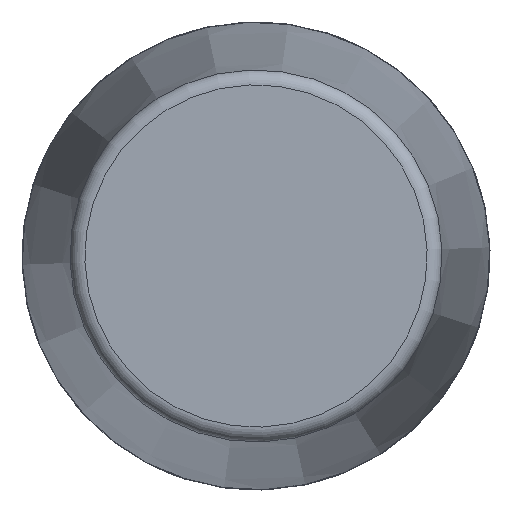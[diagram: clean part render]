
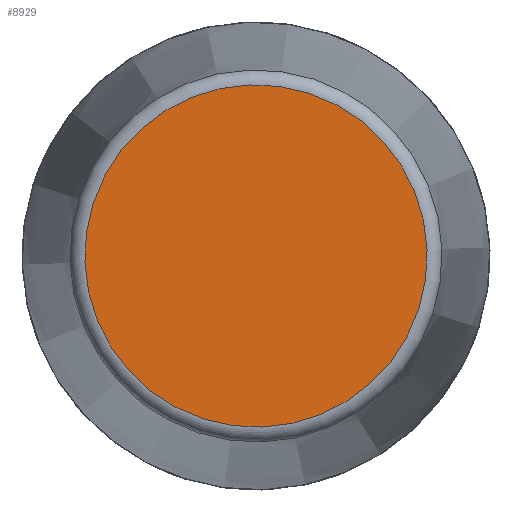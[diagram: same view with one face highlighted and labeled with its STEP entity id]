
A CAD part, front view. The second image highlights one B-rep face of the part: STEP entity #8929.
In plain terms, the highlighted planar face has unit normal (0, -1, 0) as drawn and (1, 0, 0) by its records, which use the part's own axes.
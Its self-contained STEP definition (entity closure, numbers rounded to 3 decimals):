
#245=PLANE('',#9286);
#3062=FACE_OUTER_BOUND('',#3639,.T.);
#3639=EDGE_LOOP('',(#8404));
#3680=CIRCLE('',#9282,115.156);
#4554=VERTEX_POINT('',#16984);
#5840=EDGE_CURVE('',#4554,#4554,#3680,.T.);
#8404=ORIENTED_EDGE('',*,*,#5840,.F.);
#8929=ADVANCED_FACE('',(#3062),#245,.T.);
#9282=AXIS2_PLACEMENT_3D('',#16985,#10577,#10578);
#9286=AXIS2_PLACEMENT_3D('',#16991,#10585,#10586);
#10577=DIRECTION('center_axis',(-1.,0.,0.));
#10578=DIRECTION('ref_axis',(0.,0.,
1.));
#10585=DIRECTION('center_axis',(1.,0.,0.));
#10586=DIRECTION('ref_axis',(0.,0.,-1.));
#16984=CARTESIAN_POINT('',(579.,0.,-115.156));
#16985=CARTESIAN_POINT('Origin',(579.,0.,0.));
#16991=CARTESIAN_POINT('Origin',(579.,0.,0.));
